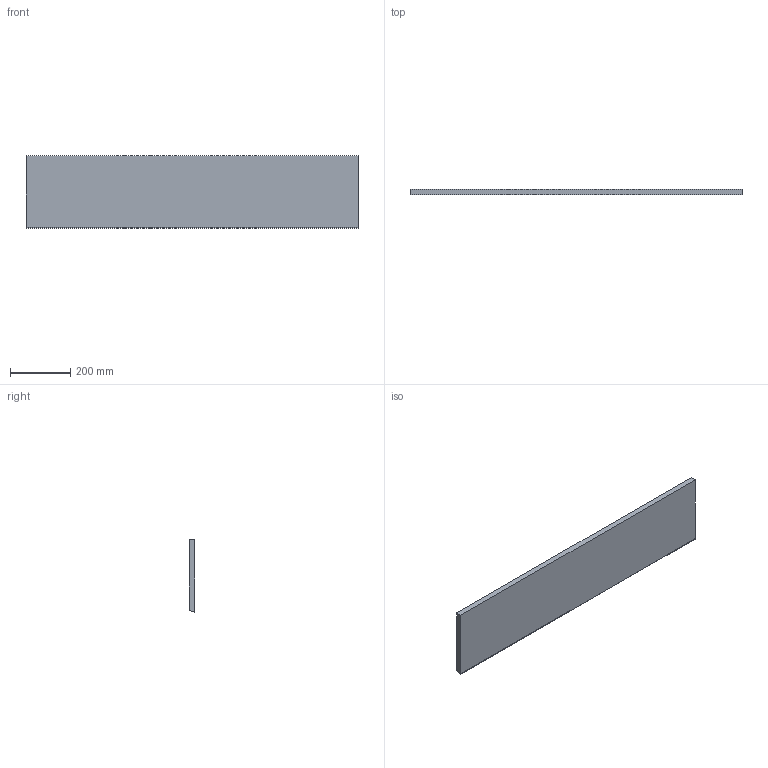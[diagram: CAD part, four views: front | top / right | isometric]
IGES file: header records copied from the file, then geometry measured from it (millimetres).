
Start section:  PTC IGES file: C:\Documents and Settings\Brad\Desktop\LABsub_CAD\mouth_ back_corner.igs
Global section: file name: C:\Documents and Settings\Brad\Desktop\LABsub_CAD\mouth_back_corner.igs; native system: Brad by Parametric Technology Corporation; preprocessor: 2003250; author: Unknown; organization: PTC; date: 040522.160822; units: inch
Bounding box: 1104.9 x 19.05 x 242.24 mm (x, y, z)
Volume: 5025066.7 mm3; surface area: 578758.7 mm2
Topology: 1 solids, 1 shells, 7 faces, 15 edges, 10 vertices
Faces by surface type: bspline 7
